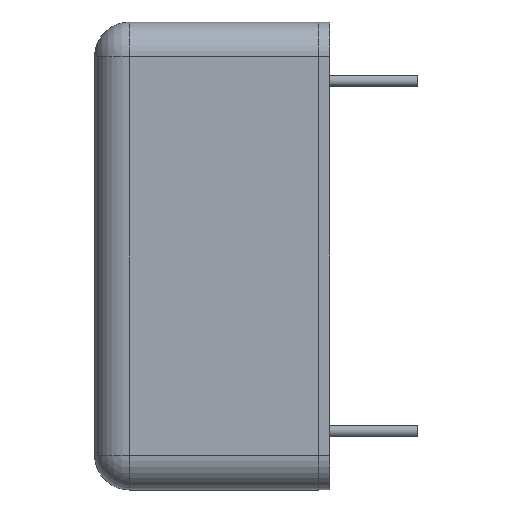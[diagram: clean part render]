
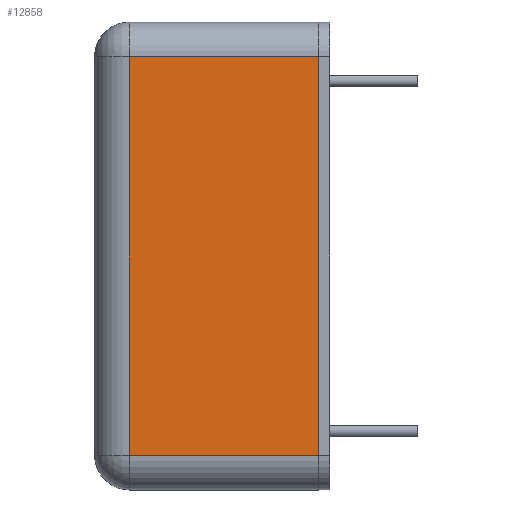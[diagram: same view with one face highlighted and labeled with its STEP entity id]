
A CAD part, left-side view. The second image highlights one B-rep face of the part: STEP entity #12858.
In plain terms, the highlighted planar face has unit normal (-1, 0, 0) as drawn and (0, 0, 1) by its records, which use the part's own axes.
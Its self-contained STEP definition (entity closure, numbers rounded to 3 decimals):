
#5867 = DIRECTION ( 'NONE',  ( -1., 0., 0. ) ) ;
#5868 = DIRECTION ( 'NONE',  ( 0., 0., -1. ) ) ;
#5869 = AXIS2_PLACEMENT_3D ( 'NONE', #5870, #5868, #5867 ) ;
#5870 = CARTESIAN_POINT ( 'NONE',  ( -10.15, 9.7, 15.9 ) ) ;
#5871 = PLANE ( 'NONE',  #5869 ) ;
#5872 = FACE_OUTER_BOUND ( 'NONE', #12864, .T. ) ;
#5890 = DIRECTION ( 'NONE',  ( 0., 1., 0. ) ) ;
#5891 = VECTOR ( 'NONE', #5890, 1000. ) ;
#5892 = CARTESIAN_POINT ( 'NONE',  ( 8.65, 9.7, 15.9 ) ) ;
#5896 = LINE ( 'NONE', #5892, #5891 ) ;
#5905 = CARTESIAN_POINT ( 'NONE',  ( -8.65, 0., 15.9 ) ) ;
#5906 = DIRECTION ( 'NONE',  ( 0., -1., 0. ) ) ;
#5907 = VECTOR ( 'NONE', #5906, 1000. ) ;
#5908 = CARTESIAN_POINT ( 'NONE',  ( -8.65, 9.7, 15.9 ) ) ;
#5909 = LINE ( 'NONE', #5908, #5907 ) ;
#5910 = DIRECTION ( 'NONE',  ( -1., 0., 0. ) ) ;
#5911 = VECTOR ( 'NONE', #5910, 1000. ) ;
#5912 = CARTESIAN_POINT ( 'NONE',  ( -10.15, 8.2, 15.9 ) ) ;
#5913 = LINE ( 'NONE', #5912, #5911 ) ;
#5972 = CARTESIAN_POINT ( 'NONE',  ( -8.65, 8.2, 15.9 ) ) ;
#5973 = CARTESIAN_POINT ( 'NONE',  ( 8.65, 8.2, 15.9 ) ) ;
#5980 = CARTESIAN_POINT ( 'NONE',  ( 8.65, 0., 15.9 ) ) ;
#5981 = DIRECTION ( 'NONE',  ( 1., 0., 0. ) ) ;
#5982 = VECTOR ( 'NONE', #5981, 1000. ) ;
#5983 = CARTESIAN_POINT ( 'NONE',  ( -10.15, 0., 15.9 ) ) ;
#5984 = LINE ( 'NONE', #5983, #5982 ) ;
#12379 = ORIENTED_EDGE ( 'NONE', *, *, #12878, .T. ) ;
#12858 = ADVANCED_FACE ( 'NONE', ( #5872 ), #5871, .F. ) ;
#12860 = ORIENTED_EDGE ( 'NONE', *, *, #12867, .T. ) ;
#12864 = EDGE_LOOP ( 'NONE', ( #12865, #12860, #12892, #12379 ) ) ;
#12865 = ORIENTED_EDGE ( 'NONE', *, *, #12866, .T. ) ;
#12866 = EDGE_CURVE ( 'NONE', #12902, #12903, #5913, .T. ) ;
#12867 = EDGE_CURVE ( 'NONE', #12903, #12868, #5909, .T. ) ;
#12868 = VERTEX_POINT ( 'NONE', #5905 ) ;
#12878 = EDGE_CURVE ( 'NONE', #12894, #12902, #5896, .T. ) ;
#12892 = ORIENTED_EDGE ( 'NONE', *, *, #12893, .T. ) ;
#12893 = EDGE_CURVE ( 'NONE', #12868, #12894, #5984, .T. ) ;
#12894 = VERTEX_POINT ( 'NONE', #5980 ) ;
#12902 = VERTEX_POINT ( 'NONE', #5973 ) ;
#12903 = VERTEX_POINT ( 'NONE', #5972 ) ;
